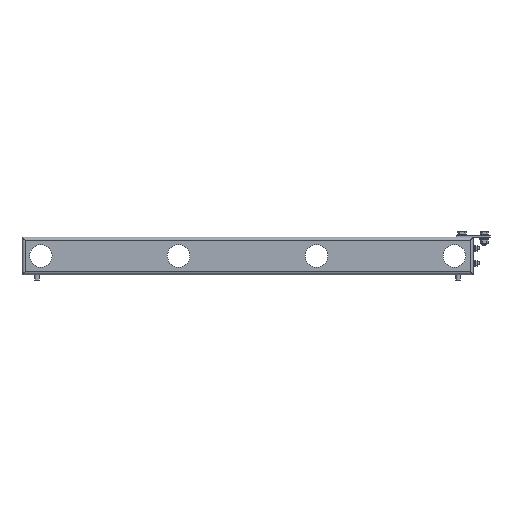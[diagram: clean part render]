
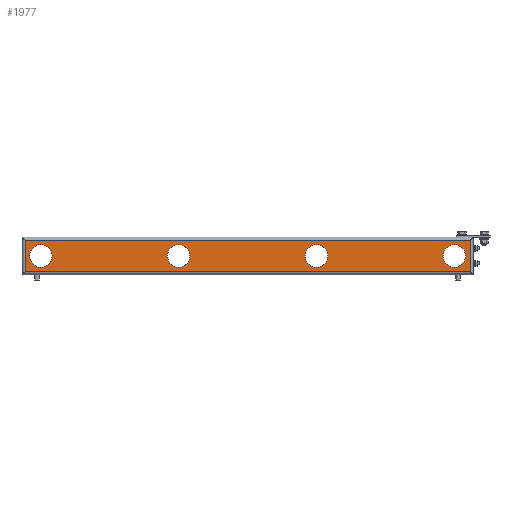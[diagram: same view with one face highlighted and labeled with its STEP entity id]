
A CAD part, left-side view. The second image highlights one B-rep face of the part: STEP entity #1977.
In plain terms, the highlighted planar face has unit normal (-1, 0, 0).
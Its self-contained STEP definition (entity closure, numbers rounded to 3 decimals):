
#1977=ADVANCED_FACE('',(#2303,#2305,#2307,#2309,#2311),#2313,.T.);
#2303=FACE_BOUND('',#2304,.T.);
#2304=EDGE_LOOP('',(#5696,#5697,#5698,#5699));
#2305=FACE_BOUND('',#2306,.T.);
#2306=EDGE_LOOP('',(#5700));
#2307=FACE_BOUND('',#2308,.T.);
#2308=EDGE_LOOP('',(#5701));
#2309=FACE_BOUND('',#2310,.T.);
#2310=EDGE_LOOP('',(#5702));
#2311=FACE_BOUND('',#2312,.T.);
#2312=EDGE_LOOP('',(#5703));
#2313=PLANE('',#2314);
#2314=AXIS2_PLACEMENT_3D('',#2315,#2316,#2317);
#2315=CARTESIAN_POINT('',(0.,600.,42.));
#2316=DIRECTION('',(-1.,0.,0.));
#2317=DIRECTION('',(0.,0.,-1.));
#5696=ORIENTED_EDGE('',*,*,#6312,.T.);
#5697=ORIENTED_EDGE('',*,*,#6313,.T.);
#5698=ORIENTED_EDGE('',*,*,#6302,.T.);
#5699=ORIENTED_EDGE('',*,*,#6311,.F.);
#5700=ORIENTED_EDGE('',*,*,#6314,.T.);
#5701=ORIENTED_EDGE('',*,*,#6315,.T.);
#5702=ORIENTED_EDGE('',*,*,#6316,.T.);
#5703=ORIENTED_EDGE('',*,*,#6317,.T.);
#6302=EDGE_CURVE('',#6614,#6612,#6615,.T.);
#6311=EDGE_CURVE('',#6628,#6612,#6630,.T.);
#6312=EDGE_CURVE('',#6628,#6631,#6632,.T.);
#6313=EDGE_CURVE('',#6631,#6614,#6633,.T.);
#6314=EDGE_CURVE('',#6634,#6634,#6635,.F.);
#6315=EDGE_CURVE('',#6636,#6636,#6637,.F.);
#6316=EDGE_CURVE('',#6638,#6638,#6639,.F.);
#6317=EDGE_CURVE('',#6640,#6640,#6641,.F.);
#6612=VERTEX_POINT('',#7146);
#6614=VERTEX_POINT('',#7151);
#6615=LINE('',#7152,#7153);
#6628=VERTEX_POINT('',#7184);
#6630=LINE('',#7189,#7190);
#6631=VERTEX_POINT('',#7192);
#6632=LINE('',#7193,#7194);
#6633=LINE('',#7196,#7197);
#6634=VERTEX_POINT('',#7199);
#6635=CIRCLE('',#7200,30.);
#6636=VERTEX_POINT('',#7204);
#6637=CIRCLE('',#7205,30.);
#6638=VERTEX_POINT('',#7209);
#6639=CIRCLE('',#7210,30.);
#6640=VERTEX_POINT('',#7214);
#6641=CIRCLE('',#7215,30.);
#7146=CARTESIAN_POINT('',(0.,-592.,42.));
#7151=CARTESIAN_POINT('',(0.,-592.,-42.));
#7152=CARTESIAN_POINT('',(0.,-592.,-42.));
#7153=VECTOR('',#7154,1.);
#7154=DIRECTION('',(0.,0.,1.));
#7184=CARTESIAN_POINT('',(0.,592.,42.));
#7189=CARTESIAN_POINT('',(0.,592.,42.));
#7190=VECTOR('',#7191,1.);
#7191=DIRECTION('',(0.,-1.,0.));
#7192=CARTESIAN_POINT('',(0.,592.,-42.));
#7193=CARTESIAN_POINT('',(0.,592.,42.));
#7194=VECTOR('',#7195,1.);
#7195=DIRECTION('',(0.,0.,-1.));
#7196=CARTESIAN_POINT('',(0.,592.,-42.));
#7197=VECTOR('',#7198,1.);
#7198=DIRECTION('',(0.,-1.,0.));
#7199=CARTESIAN_POINT('',(0.,153.333,0.));
#7200=AXIS2_PLACEMENT_3D('',#7201,#7202,#7203);
#7201=CARTESIAN_POINT('',(0.,183.333,0.));
#7202=DIRECTION('',(-1.,0.,0.));
#7203=DIRECTION('',(0.,-1.,0.));
#7204=CARTESIAN_POINT('',(0.,-213.333,0.));
#7205=AXIS2_PLACEMENT_3D('',#7206,#7207,#7208);
#7206=CARTESIAN_POINT('',(0.,-183.333,0.));
#7207=DIRECTION('',(-1.,0.,0.));
#7208=DIRECTION('',(0.,-1.,0.));
#7209=CARTESIAN_POINT('',(0.,-580.,0.));
#7210=AXIS2_PLACEMENT_3D('',#7211,#7212,#7213);
#7211=CARTESIAN_POINT('',(0.,-550.,0.));
#7212=DIRECTION('',(-1.,0.,0.));
#7213=DIRECTION('',(0.,-1.,0.));
#7214=CARTESIAN_POINT('',(0.,520.,0.));
#7215=AXIS2_PLACEMENT_3D('',#7216,#7217,#7218);
#7216=CARTESIAN_POINT('',(0.,550.,0.));
#7217=DIRECTION('',(-1.,0.,0.));
#7218=DIRECTION('',(0.,-1.,0.));
